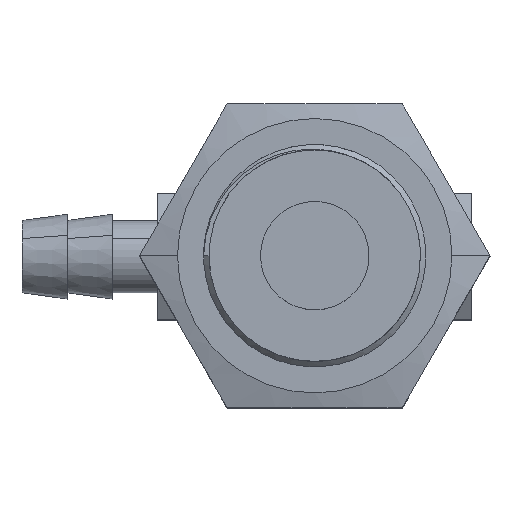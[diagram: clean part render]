
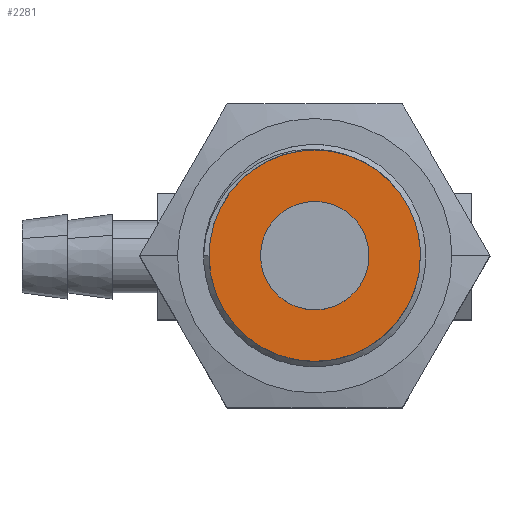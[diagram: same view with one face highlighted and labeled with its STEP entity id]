
A CAD part, top view. The second image highlights one B-rep face of the part: STEP entity #2281.
In plain terms, the highlighted planar face has unit normal (0, 0, 1).
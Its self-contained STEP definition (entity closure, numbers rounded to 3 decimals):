
#255 = CARTESIAN_POINT ( 'NONE',  ( 7.357, 1.337, 17.25 ) ) ;
#307 = CARTESIAN_POINT ( 'NONE',  ( 1.801, 4.724, 17.25 ) ) ;
#350 = CARTESIAN_POINT ( 'NONE',  ( -3.327, 1.217, 17.25 ) ) ;
#422 = DIRECTION ( 'NONE',  ( -1., 0., 0. ) ) ;
#438 = VERTEX_POINT ( 'NONE', #12118 ) ;
#544 = EDGE_LOOP ( 'NONE', ( #11911, #13379, #8282 ) ) ;
#624 = VERTEX_POINT ( 'NONE', #1018 ) ;
#778 = CARTESIAN_POINT ( 'NONE',  ( 2.042, -1.131, 17.25 ) ) ;
#937 = FACE_OUTER_BOUND ( 'NONE', #544, .T. ) ;
#982 = DIRECTION ( 'NONE',  ( 0., 0., 1. ) ) ;
#1018 = CARTESIAN_POINT ( 'NONE',  ( 7.602, 0.687, 17.25 ) ) ;
#1087 = DIRECTION ( 'NONE',  ( 0., 0., 1. ) ) ;
#1235 = AXIS2_PLACEMENT_3D ( 'NONE', #7936, #1544, #9031 ) ;
#1263 = AXIS2_PLACEMENT_3D ( 'NONE', #7470, #1087, #8557 ) ;
#1339 = CARTESIAN_POINT ( 'NONE',  ( 6.84, 2.234, 17.25 ) ) ;
#1385 = CARTESIAN_POINT ( 'NONE',  ( 0.779, 4.591, 17.25 ) ) ;
#1432 = CARTESIAN_POINT ( 'NONE',  ( -3.657, 0.233, 17.25 ) ) ;
#1544 = DIRECTION ( 'NONE',  ( 0., 0., 1. ) ) ;
#1826 = EDGE_CURVE ( 'NONE', #11162, #12394, #3642, .T. ) ;
#1851 = DIRECTION ( 'NONE',  ( 1., 0., 0. ) ) ;
#2281 = ADVANCED_FACE ( 'NONE', ( #6610, #937 ), #3022, .T. ) ;
#2412 = CARTESIAN_POINT ( 'NONE',  ( 6.173, 3.026, 17.25 ) ) ;
#2462 = CARTESIAN_POINT ( 'NONE',  ( -0.208, 4.279, 17.25 ) ) ;
#2503 = CARTESIAN_POINT ( 'NONE',  ( -3.808, -0.784, 17.25 ) ) ;
#2873 = EDGE_CURVE ( 'NONE', #12394, #11162, #13778, .T. ) ;
#3022 = PLANE ( 'NONE',  #10798 ) ;
#3273 = VERTEX_POINT ( 'NONE', #5740 ) ;
#3281 = ORIENTED_EDGE ( 'NONE', *, *, #1826, .F. ) ;
#3478 = CARTESIAN_POINT ( 'NONE',  ( 5.381, 3.685, 17.25 ) ) ;
#3522 = CARTESIAN_POINT ( 'NONE',  ( -1.122, 3.801, 17.25 ) ) ;
#3642 = CIRCLE ( 'NONE', #1235, 3. ) ;
#3994 = CIRCLE ( 'NONE', #1263, 5.85 ) ;
#4143 = EDGE_CURVE ( 'NONE', #624, #3273, #5746, .T. ) ;
#4501 = CARTESIAN_POINT ( 'NONE',  ( 7.602, 0.687, 17.25 ) ) ;
#4542 = CARTESIAN_POINT ( 'NONE',  ( 4.481, 4.197, 17.25 ) ) ;
#4591 = CARTESIAN_POINT ( 'NONE',  ( -1.939, 3.168, 17.25 ) ) ;
#5554 = CARTESIAN_POINT ( 'NONE',  ( 7.494, 1.017, 17.25 ) ) ;
#5596 = CARTESIAN_POINT ( 'NONE',  ( 3.51, 4.542, 17.25 ) ) ;
#5642 = CARTESIAN_POINT ( 'NONE',  ( -2.632, 2.403, 17.25 ) ) ;
#5740 = CARTESIAN_POINT ( 'NONE',  ( -3.808, -1.131, 17.25 ) ) ;
#5746 = B_SPLINE_CURVE_WITH_KNOTS ( 'NONE', 3,
 ( #4501, #5554, #255, #7724, #1339, #8823, #2412, #9914, #3478, #11031, #4542, #12154, #5596, #13257, #6687, #307, #7773, #1385, #8869, #2462, #9962, #3522, #11083, #4591, #12191, #5642, #13303, #6728, #350, #7824, #1432, #8916, #2503, #10013 ),
 .UNSPECIFIED., .F., .F.,
 ( 4, 2, 2, 2, 2, 2, 2, 2, 2, 2, 2, 2, 2, 2, 2, 2, 4 ),
 ( 0., 0.001, 0.002, 0.003, 0.004, 0.005, 0.006, 0.007, 0.008, 0.009, 0.01, 0.011, 0.012, 0.014, 0.015, 0.016, 0.017 ),
 .UNSPECIFIED. ) ;
#6320 = AXIS2_PLACEMENT_3D ( 'NONE', #778, #8245, #1851 ) ;
#6610 = FACE_BOUND ( 'NONE', #7078, .T. ) ;
#6687 = CARTESIAN_POINT ( 'NONE',  ( 2.488, 4.712, 17.25 ) ) ;
#6728 = CARTESIAN_POINT ( 'NONE',  ( -3.18, 1.527, 17.25 ) ) ;
#6797 = DIRECTION ( 'NONE',  ( 0., 0., 1. ) ) ;
#7078 = EDGE_LOOP ( 'NONE', ( #9462, #3281 ) ) ;
#7356 = CARTESIAN_POINT ( 'NONE',  ( -3.878, -7.052, 17.25 ) ) ;
#7470 = CARTESIAN_POINT ( 'NONE',  ( 2.042, -1.131, 17.25 ) ) ;
#7613 = AXIS2_PLACEMENT_3D ( 'NONE', #13369, #6797, #422 ) ;
#7711 = EDGE_CURVE ( 'NONE', #3273, #438, #3994, .T. ) ;
#7724 = CARTESIAN_POINT ( 'NONE',  ( 7.029, 1.947, 17.25 ) ) ;
#7773 = CARTESIAN_POINT ( 'NONE',  ( 1.459, 4.7, 17.25 ) ) ;
#7824 = CARTESIAN_POINT ( 'NONE',  ( -3.566, 0.568, 17.25 ) ) ;
#7936 = CARTESIAN_POINT ( 'NONE',  ( 2.042, -1.131, 17.25 ) ) ;
#8245 = DIRECTION ( 'NONE',  ( 0., 0., 1. ) ) ;
#8266 = CARTESIAN_POINT ( 'NONE',  ( 5.042, -1.131, 17.25 ) ) ;
#8282 = ORIENTED_EDGE ( 'NONE', *, *, #8354, .T. ) ;
#8354 = EDGE_CURVE ( 'NONE', #438, #624, #9281, .T. ) ;
#8452 = DIRECTION ( 'NONE',  ( 1., 0., 0. ) ) ;
#8557 = DIRECTION ( 'NONE',  ( -1., 0., 0. ) ) ;
#8823 = CARTESIAN_POINT ( 'NONE',  ( 6.413, 2.772, 17.25 ) ) ;
#8869 = CARTESIAN_POINT ( 'NONE',  ( 0.44, 4.505, 17.25 ) ) ;
#8916 = CARTESIAN_POINT ( 'NONE',  ( -3.777, -0.442, 17.25 ) ) ;
#9031 = DIRECTION ( 'NONE',  ( 1., 0., 0. ) ) ;
#9281 = CIRCLE ( 'NONE', #7613, 5.85 ) ;
#9462 = ORIENTED_EDGE ( 'NONE', *, *, #2873, .F. ) ;
#9914 = CARTESIAN_POINT ( 'NONE',  ( 5.656, 3.482, 17.25 ) ) ;
#9962 = CARTESIAN_POINT ( 'NONE',  ( -0.52, 4.139, 17.25 ) ) ;
#10013 = CARTESIAN_POINT ( 'NONE',  ( -3.808, -1.131, 17.25 ) ) ;
#10798 = AXIS2_PLACEMENT_3D ( 'NONE', #7356, #982, #8452 ) ;
#11031 = CARTESIAN_POINT ( 'NONE',  ( 4.794, 4.042, 17.25 ) ) ;
#11083 = CARTESIAN_POINT ( 'NONE',  ( -1.41, 3.604, 17.25 ) ) ;
#11146 = CARTESIAN_POINT ( 'NONE',  ( -0.958, -1.131, 17.25 ) ) ;
#11162 = VERTEX_POINT ( 'NONE', #11146 ) ;
#11911 = ORIENTED_EDGE ( 'NONE', *, *, #4143, .T. ) ;
#12118 = CARTESIAN_POINT ( 'NONE',  ( 7.892, -1.131, 17.25 ) ) ;
#12154 = CARTESIAN_POINT ( 'NONE',  ( 3.839, 4.446, 17.25 ) ) ;
#12191 = CARTESIAN_POINT ( 'NONE',  ( -2.184, 2.928, 17.25 ) ) ;
#12394 = VERTEX_POINT ( 'NONE', #8266 ) ;
#13257 = CARTESIAN_POINT ( 'NONE',  ( 2.836, 4.675, 17.25 ) ) ;
#13303 = CARTESIAN_POINT ( 'NONE',  ( -2.834, 2.119, 17.25 ) ) ;
#13369 = CARTESIAN_POINT ( 'NONE',  ( 2.042, -1.131, 17.25 ) ) ;
#13379 = ORIENTED_EDGE ( 'NONE', *, *, #7711, .T. ) ;
#13778 = CIRCLE ( 'NONE', #6320, 3. ) ;
